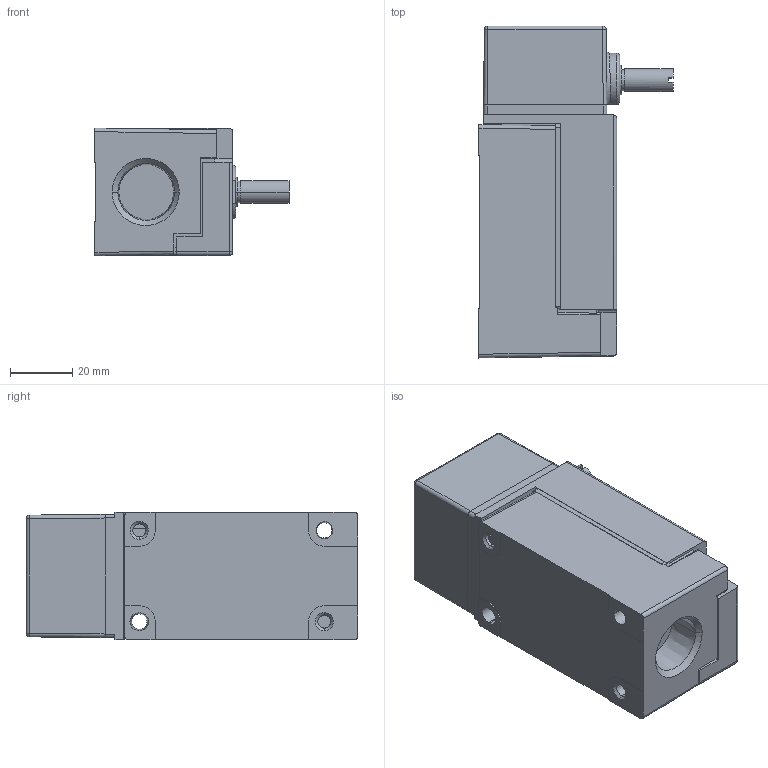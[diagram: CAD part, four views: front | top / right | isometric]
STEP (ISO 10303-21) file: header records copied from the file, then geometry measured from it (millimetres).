
FILE_DESCRIPTION((''),'2;1');
FILE_NAME('LSA1A_SW','2012-12-06T',('E522935'),(''),'PRO/ENGINEER BY PARAMETRIC TECHNOLOGY CORPORATION, 2009460','PRO/ENGINEER BY PARAMETRIC TECHNOLOGY CORPORATION, 2009460','');
FILE_SCHEMA(('CONFIG_CONTROL_DESIGN'));
Length unit declared in the file: inch
Products named in the file (1): LSA1A_SW
Bounding box: 62.46 x 106.78 x 41.15 mm (x, y, z)
Volume: 176733.8 mm3; surface area: 25839 mm2
Topology: 1 solids, 1 shells, 436 faces, 1069 edges, 656 vertices
Faces by surface type: plane 250, cylinder 130, cone 21, sphere 17, bspline 17, torus 1
Entity records: 13956 total; most frequent: CARTESIAN_POINT 3596, DIRECTION 2178, ORIENTED_EDGE 2138, EDGE_CURVE 1069, AXIS2_PLACEMENT_3D 769, VERTEX_POINT 656, VECTOR 640, LINE 640
